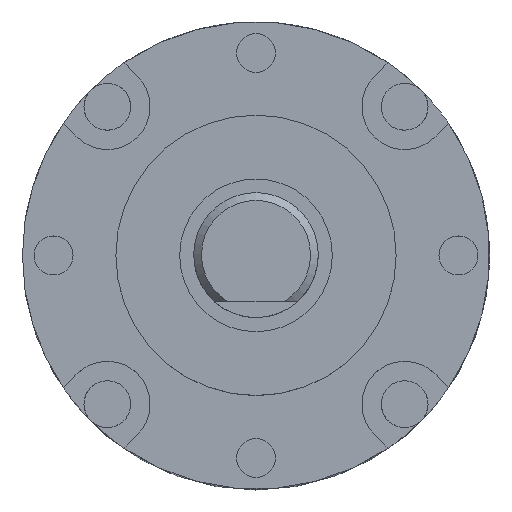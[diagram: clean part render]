
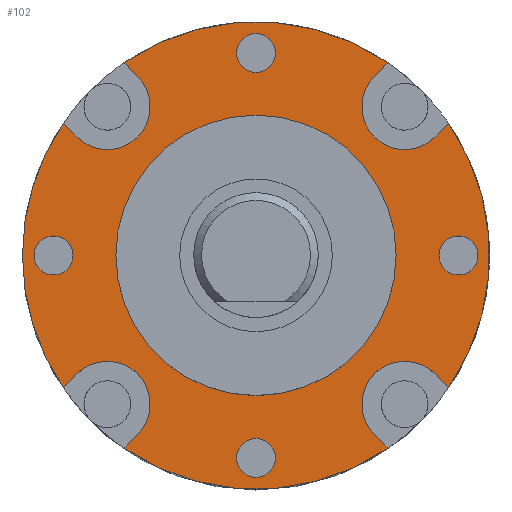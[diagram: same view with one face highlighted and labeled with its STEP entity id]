
A CAD part, top view. The second image highlights one B-rep face of the part: STEP entity #102.
In plain terms, the highlighted planar face has unit normal (0, 0, 1).
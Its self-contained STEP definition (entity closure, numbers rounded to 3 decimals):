
#66=PLANE('',#1058);
#102=ADVANCED_FACE('',(#190,#191,#192,#193,#194,#195),#66,.T.);
#190=FACE_BOUND('',#260,.T.);
#191=FACE_BOUND('',#261,.T.);
#192=FACE_BOUND('',#262,.T.);
#193=FACE_BOUND('',#263,.T.);
#194=FACE_BOUND('',#264,.T.);
#195=FACE_BOUND('',#265,.T.);
#260=EDGE_LOOP('',(#378));
#261=EDGE_LOOP('',(#379));
#262=EDGE_LOOP('',(#380));
#263=EDGE_LOOP('',(#381));
#264=EDGE_LOOP('',(#382));
#265=EDGE_LOOP('',(#383,#384,#385,#386,#387,#388,#389,#390,#391,#392,#393,
#394,#395,#396,#397,#398));
#378=ORIENTED_EDGE('',*,*,#658,.T.);
#379=ORIENTED_EDGE('',*,*,#659,.T.);
#380=ORIENTED_EDGE('',*,*,#660,.T.);
#381=ORIENTED_EDGE('',*,*,#661,.T.);
#382=ORIENTED_EDGE('',*,*,#662,.T.);
#383=ORIENTED_EDGE('',*,*,#643,.F.);
#384=ORIENTED_EDGE('',*,*,#663,.T.);
#385=ORIENTED_EDGE('',*,*,#664,.T.);
#386=ORIENTED_EDGE('',*,*,#665,.T.);
#387=ORIENTED_EDGE('',*,*,#638,.F.);
#388=ORIENTED_EDGE('',*,*,#666,.T.);
#389=ORIENTED_EDGE('',*,*,#667,.T.);
#390=ORIENTED_EDGE('',*,*,#668,.T.);
#391=ORIENTED_EDGE('',*,*,#653,.F.);
#392=ORIENTED_EDGE('',*,*,#669,.T.);
#393=ORIENTED_EDGE('',*,*,#670,.T.);
#394=ORIENTED_EDGE('',*,*,#671,.T.);
#395=ORIENTED_EDGE('',*,*,#648,.F.);
#396=ORIENTED_EDGE('',*,*,#672,.T.);
#397=ORIENTED_EDGE('',*,*,#673,.T.);
#398=ORIENTED_EDGE('',*,*,#674,.T.);
#560=VERTEX_POINT('',#1513);
#561=VERTEX_POINT('',#1514);
#565=VERTEX_POINT('',#1522);
#566=VERTEX_POINT('',#1524);
#570=VERTEX_POINT('',#1532);
#571=VERTEX_POINT('',#1534);
#575=VERTEX_POINT('',#1542);
#576=VERTEX_POINT('',#1544);
#580=VERTEX_POINT('',#1554);
#581=VERTEX_POINT('',#1556);
#582=VERTEX_POINT('',#1558);
#583=VERTEX_POINT('',#1560);
#584=VERTEX_POINT('',#1562);
#585=VERTEX_POINT('',#1564);
#586=VERTEX_POINT('',#1566);
#587=VERTEX_POINT('',#1569);
#588=VERTEX_POINT('',#1571);
#589=VERTEX_POINT('',#1574);
#590=VERTEX_POINT('',#1576);
#591=VERTEX_POINT('',#1579);
#592=VERTEX_POINT('',#1581);
#638=EDGE_CURVE('',#560,#561,#753,.T.);
#643=EDGE_CURVE('',#565,#566,#756,.T.);
#648=EDGE_CURVE('',#570,#571,#759,.T.);
#653=EDGE_CURVE('',#575,#576,#762,.T.);
#658=EDGE_CURVE('',#580,#580,#765,.T.);
#659=EDGE_CURVE('',#581,#581,#766,.T.);
#660=EDGE_CURVE('',#582,#582,#767,.T.);
#661=EDGE_CURVE('',#583,#583,#768,.T.);
#662=EDGE_CURVE('',#584,#584,#769,.T.);
#663=EDGE_CURVE('',#565,#585,#889,.T.);
#664=EDGE_CURVE('',#585,#586,#770,.T.);
#665=EDGE_CURVE('',#586,#561,#890,.T.);
#666=EDGE_CURVE('',#560,#587,#891,.T.);
#667=EDGE_CURVE('',#587,#588,#771,.T.);
#668=EDGE_CURVE('',#588,#576,#892,.T.);
#669=EDGE_CURVE('',#575,#589,#893,.T.);
#670=EDGE_CURVE('',#589,#590,#772,.T.);
#671=EDGE_CURVE('',#590,#571,#894,.T.);
#672=EDGE_CURVE('',#570,#591,#895,.T.);
#673=EDGE_CURVE('',#591,#592,#773,.T.);
#674=EDGE_CURVE('',#592,#566,#896,.T.);
#753=CIRCLE('',#1036,15.);
#756=CIRCLE('',#1039,15.);
#759=CIRCLE('',#1042,15.);
#762=CIRCLE('',#1045,15.);
#765=CIRCLE('',#1049,1.25);
#766=CIRCLE('',#1050,1.25);
#767=CIRCLE('',#1051,1.25);
#768=CIRCLE('',#1052,1.25);
#769=CIRCLE('',#1053,9.);
#770=CIRCLE('',#1054,2.75);
#771=CIRCLE('',#1055,2.75);
#772=CIRCLE('',#1056,2.75);
#773=CIRCLE('',#1057,2.75);
#889=LINE('',#1563,#934);
#890=LINE('',#1567,#935);
#891=LINE('',#1568,#936);
#892=LINE('',#1572,#937);
#893=LINE('',#1573,#938);
#894=LINE('',#1577,#939);
#895=LINE('',#1578,#940);
#896=LINE('',#1582,#941);
#934=VECTOR('',#1245,1.);
#935=VECTOR('',#1248,1.);
#936=VECTOR('',#1249,1.);
#937=VECTOR('',#1252,1.);
#938=VECTOR('',#1253,1.);
#939=VECTOR('',#1256,1.);
#940=VECTOR('',#1257,1.);
#941=VECTOR('',#1260,1.);
#1036=AXIS2_PLACEMENT_3D('',#1512,#1201,#1202);
#1039=AXIS2_PLACEMENT_3D('',#1523,#1209,#1210);
#1042=AXIS2_PLACEMENT_3D('',#1533,#1217,#1218);
#1045=AXIS2_PLACEMENT_3D('',#1543,#1225,#1226);
#1049=AXIS2_PLACEMENT_3D('',#1553,#1235,#1236);
#1050=AXIS2_PLACEMENT_3D('',#1555,#1237,#1238);
#1051=AXIS2_PLACEMENT_3D('',#1557,#1239,#1240);
#1052=AXIS2_PLACEMENT_3D('',#1559,#1241,#1242);
#1053=AXIS2_PLACEMENT_3D('',#1561,#1243,#1244);
#1054=AXIS2_PLACEMENT_3D('',#1565,#1246,#1247);
#1055=AXIS2_PLACEMENT_3D('',#1570,#1250,#1251);
#1056=AXIS2_PLACEMENT_3D('',#1575,#1254,#1255);
#1057=AXIS2_PLACEMENT_3D('',#1580,#1258,#1259);
#1058=AXIS2_PLACEMENT_3D('',#1583,#1261,#1262);
#1201=DIRECTION('',(0.,0.,-1.));
#1202=DIRECTION('',(-1.,0.,0.));
#1209=DIRECTION('',(0.,0.,-1.));
#1210=DIRECTION('',(-1.,0.,0.));
#1217=DIRECTION('',(0.,0.,-1.));
#1218=DIRECTION('',(-1.,0.,0.));
#1225=DIRECTION('',(0.,0.,-1.));
#1226=DIRECTION('',(-1.,0.,0.));
#1235=DIRECTION('',(0.,0.,-1.));
#1236=DIRECTION('',(0.,1.,0.));
#1237=DIRECTION('',(0.,0.,-1.));
#1238=DIRECTION('',(1.,0.,0.));
#1239=DIRECTION('',(0.,0.,-1.));
#1240=DIRECTION('',(0.,-1.,0.));
#1241=DIRECTION('',(0.,0.,-1.));
#1242=DIRECTION('',(-1.,0.,0.));
#1243=DIRECTION('',(0.,0.,-1.));
#1244=DIRECTION('',(1.,0.,0.));
#1245=DIRECTION('',(-0.707,-0.707,0.));
#1246=DIRECTION('',(0.,0.,-1.));
#1247=DIRECTION('',(0.,-1.,0.));
#1248=DIRECTION('',(0.707,0.707,0.));
#1249=DIRECTION('',(0.707,-0.707,0.));
#1250=DIRECTION('',(0.,0.,-1.));
#1251=DIRECTION('',(1.,0.,0.));
#1252=DIRECTION('',(-0.707,0.707,0.));
#1253=DIRECTION('',(0.707,0.707,0.));
#1254=DIRECTION('',(0.,0.,-1.));
#1255=DIRECTION('',(0.,1.,0.));
#1256=DIRECTION('',(-0.707,-0.707,0.));
#1257=DIRECTION('',(-0.707,0.707,0.));
#1258=DIRECTION('',(0.,0.,-1.));
#1259=DIRECTION('',(-1.,0.,0.));
#1260=DIRECTION('',(0.707,-0.707,0.));
#1261=DIRECTION('',(0.,0.,1.));
#1262=DIRECTION('',(1.,0.,0.));
#1512=CARTESIAN_POINT('',(0.,0.,0.));
#1513=CARTESIAN_POINT('',(-8.482,12.371,0.));
#1514=CARTESIAN_POINT('',(8.482,12.371,0.));
#1522=CARTESIAN_POINT('',(12.371,8.482,0.));
#1523=CARTESIAN_POINT('',(0.,0.,0.));
#1524=CARTESIAN_POINT('',(12.371,-8.482,0.));
#1532=CARTESIAN_POINT('',(8.482,-12.371,0.));
#1533=CARTESIAN_POINT('',(0.,0.,0.));
#1534=CARTESIAN_POINT('',(-8.482,-12.371,0.));
#1542=CARTESIAN_POINT('',(-12.371,-8.482,0.));
#1543=CARTESIAN_POINT('',(0.,0.,0.));
#1544=CARTESIAN_POINT('',(-12.371,8.482,0.));
#1553=CARTESIAN_POINT('',(13.,0.,0.));
#1554=CARTESIAN_POINT('',(13.,1.25,0.));
#1555=CARTESIAN_POINT('',(0.,-13.,0.));
#1556=CARTESIAN_POINT('',(1.25,-13.,0.));
#1557=CARTESIAN_POINT('',(-13.,0.,0.));
#1558=CARTESIAN_POINT('',(-13.,-1.25,0.));
#1559=CARTESIAN_POINT('',(0.,13.,0.));
#1560=CARTESIAN_POINT('',(-1.25,13.,0.));
#1561=CARTESIAN_POINT('',(0.,0.,0.));
#1562=CARTESIAN_POINT('',(9.,0.,0.));
#1563=CARTESIAN_POINT('',(12.551,8.662,0.));
#1564=CARTESIAN_POINT('',(11.49,7.601,0.));
#1565=CARTESIAN_POINT('',(9.546,9.546,0.));
#1566=CARTESIAN_POINT('',(7.601,11.49,0.));
#1567=CARTESIAN_POINT('',(7.601,11.49,0.));
#1568=CARTESIAN_POINT('',(-8.662,12.551,0.));
#1569=CARTESIAN_POINT('',(-7.601,11.49,0.));
#1570=CARTESIAN_POINT('',(-9.546,9.546,0.));
#1571=CARTESIAN_POINT('',(-11.49,7.601,0.));
#1572=CARTESIAN_POINT('',(-11.49,7.601,0.));
#1573=CARTESIAN_POINT('',(-12.551,-8.662,0.));
#1574=CARTESIAN_POINT('',(-11.49,-7.601,0.));
#1575=CARTESIAN_POINT('',(-9.546,-9.546,0.));
#1576=CARTESIAN_POINT('',(-7.601,-11.49,0.));
#1577=CARTESIAN_POINT('',(-7.601,-11.49,0.));
#1578=CARTESIAN_POINT('',(8.662,-12.551,0.));
#1579=CARTESIAN_POINT('',(7.601,-11.49,0.));
#1580=CARTESIAN_POINT('',(9.546,-9.546,0.));
#1581=CARTESIAN_POINT('',(11.49,-7.601,0.));
#1582=CARTESIAN_POINT('',(11.49,-7.601,0.));
#1583=CARTESIAN_POINT('',(0.,0.,0.));
